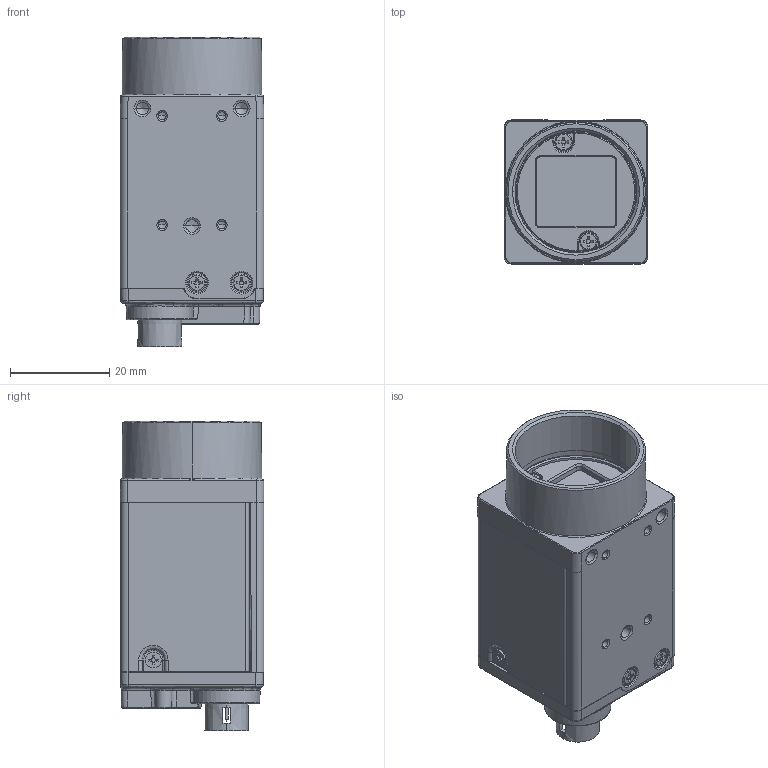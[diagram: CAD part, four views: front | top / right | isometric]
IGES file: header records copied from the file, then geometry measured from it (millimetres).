
Start section:  PTC IGES file: 18-6.igs
Global section: file name: 18-6.igs; native system: Creo Parametric by PTC Inc.; preprocessor: 2020184; author: 21511; organization: Unknown; date: 20240516.104745; units: millimetre
Bounding box: 29 x 29 x 62.5 mm (x, y, z)
Volume: 36695.9 mm3; surface area: 14608.2 mm2
Topology: 1 solids, 12 shells, 1758 faces, 4838 edges, 3077 vertices
Faces by surface type: bspline 1104, revolution 637, extrusion 17
